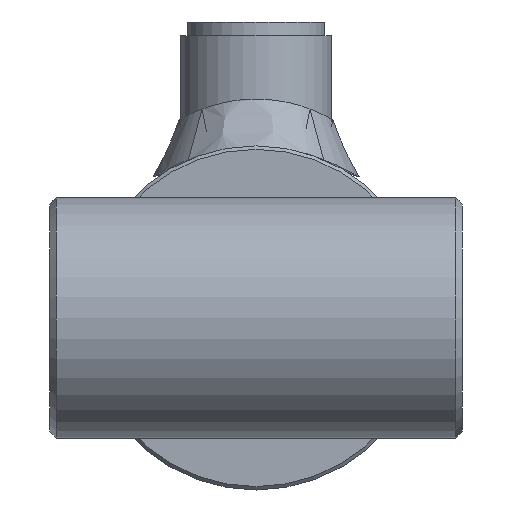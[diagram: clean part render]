
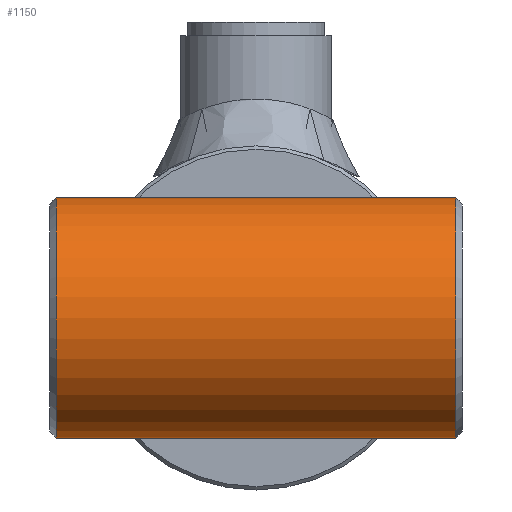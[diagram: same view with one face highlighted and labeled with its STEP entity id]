
A CAD part, left-side view. The second image highlights one B-rep face of the part: STEP entity #1150.
In plain terms, the highlighted cylindrical face has radius 17.5 mm (diameter 35 mm), a full revolution.
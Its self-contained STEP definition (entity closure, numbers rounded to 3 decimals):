
#1150 = ADVANCED_FACE( '', ( #2174, #2175 ), #2176, .T. );
#2174 = FACE_OUTER_BOUND( '', #8230, .T. );
#2175 = FACE_OUTER_BOUND( '', #8231, .T. );
#2176 = CYLINDRICAL_SURFACE( '', #8232, 17.5 );
#8230 = EDGE_LOOP( '', ( #11230 ) );
#8231 = EDGE_LOOP( '', ( #11231 ) );
#8232 = AXIS2_PLACEMENT_3D( '', #11232, #11233, #11234 );
#11230 = ORIENTED_EDGE( '', *, *, #12052, .T. );
#11231 = ORIENTED_EDGE( '', *, *, #12031, .T. );
#11232 = CARTESIAN_POINT( '', ( 0., -30., 0. ) );
#11233 = DIRECTION( '', ( 0., -1., 0. ) );
#11234 = DIRECTION( '', ( 0., 0., 1. ) );
#12031 = EDGE_CURVE( '', #13001, #13001, #13002, .T. );
#12052 = EDGE_CURVE( '', #13027, #13027, #13028, .F. );
#13001 = VERTEX_POINT( '', #15660 );
#13002 = CIRCLE( '', #15661, 17.5 );
#13027 = VERTEX_POINT( '', #15744 );
#13028 = CIRCLE( '', #15745, 17.5 );
#15660 = CARTESIAN_POINT( '', ( 0., -29., 17.5 ) );
#15661 = AXIS2_PLACEMENT_3D( '', #16820, #16821, #16822 );
#15744 = CARTESIAN_POINT( '', ( 0., 29., 17.5 ) );
#15745 = AXIS2_PLACEMENT_3D( '', #16830, #16831, #16832 );
#16820 = CARTESIAN_POINT( '', ( 0., -29., 0. ) );
#16821 = DIRECTION( '', ( 0., 1., 0. ) );
#16822 = DIRECTION( '', ( 0., 0., 1. ) );
#16830 = CARTESIAN_POINT( '', ( 0., 29., 0. ) );
#16831 = DIRECTION( '', ( 0., 1., 0. ) );
#16832 = DIRECTION( '', ( 0., 0., 1. ) );
